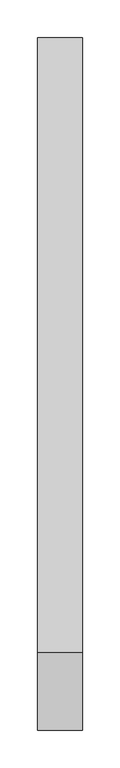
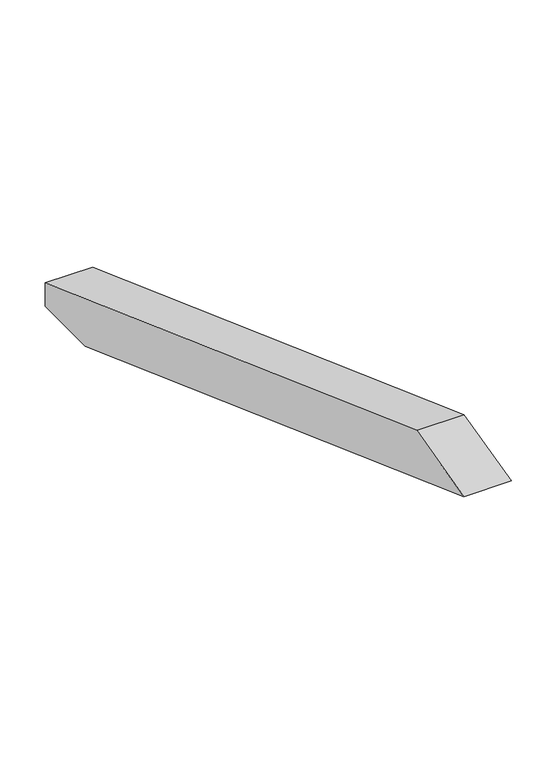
"""IFC4 building model written with IfcOpenShell, lengths in millimetres: proxy geometry, Modelos genéricos 75 : Modelos genéricos 14."""

from ifc_helpers import new_model, si_unit, frame, origin, place, context, project, spatial, polyline, outline, extrude, source, transform, mapped, element, save


def generic_models_d626a42d(model_context):
    return source(origin(), model_context, "Body", "SweptSolid", [
        extrude(outline(polyline([(-422.9933771, 3463.5158927), (-318.8830723, 3489.473507), (498.6238165, 3191.9253332), (498.6238165, 3160.0), (410.9096845, 3160.0), (-422.9933771, 3463.5158927)])), frame((-1726.5527533, 0.0, 0.0), z_axis=(1.0, 0.0, 0.0), x_axis=(0.0, 1.0, 0.0)), (0.0, 0.0, 1.0), 60.0),
    ])


if __name__ == "__main__":
    model = new_model("IFC4")
    model_context = context("Model", 3, world=origin())
    ifc_project = project(units=[si_unit("LENGTHUNIT", "METRE", prefix="MILLI")], contexts=[model_context])
    site = spatial("IfcSite", under=ifc_project)
    building = spatial("IfcBuilding", under=site)
    placement = place(None, origin())
    generic_models_shape = generic_models_d626a42d(model_context)
    element("IfcBuildingElementProxy", 1, Name="Modelos genéricos 75 : Modelos genéricos 14", ObjectType="Modelos genéricos 75 : Modelos genéricos 14", at=placement, inside=building, context=model_context, shape_type="MappedRepresentation", body=[
        mapped(generic_models_shape, transform((0.0, 0.0, 0.0), x_axis=(1.0, 0.0, 0.0), y_axis=(0.0, 1.0, 0.0), z_axis=(0.0, 0.0, 1.0))),
    ])
    save(model, "model.ifc")
